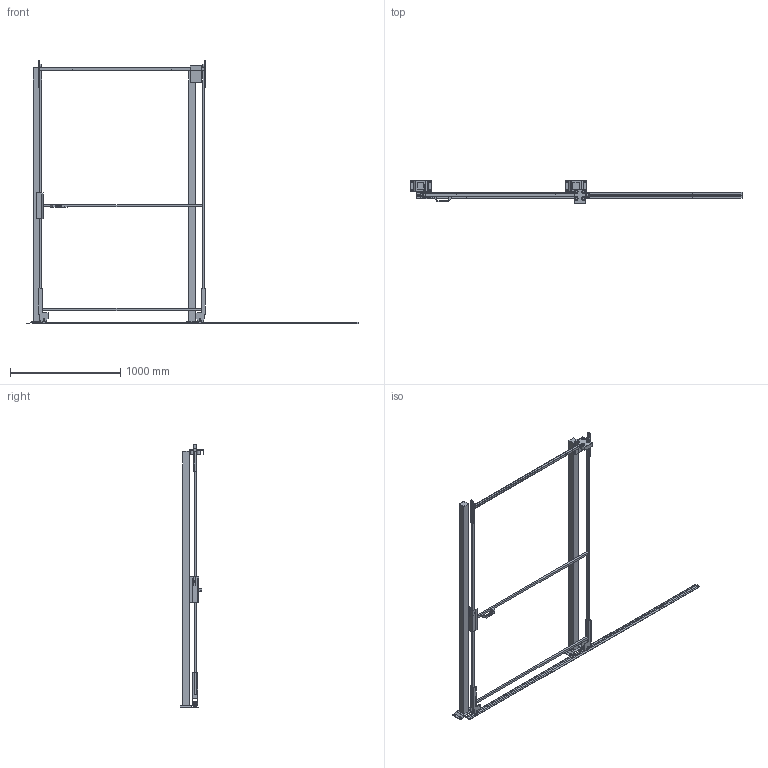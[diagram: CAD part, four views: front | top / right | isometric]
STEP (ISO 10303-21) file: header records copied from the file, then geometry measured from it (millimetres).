
FILE_DESCRIPTION(/* description */ (''),/* implementation_level */ '2;1');
FILE_NAME(/* name */ 'C:\SafeGuarding\ELABORATI\Drawing5_2025-05-05-12-46-51.stp',/* time_stamp */ '2025-05-05T12:46:56+02:00',/* author */ ('admin'),/* organization */ (''),/* preprocessor_version */ 'ST-DEVELOPER v18.1',/* originating_system */ 'AutoCAD Mechanical',/* authorisation */ '');
FILE_SCHEMA (('AUTOMOTIVE_DESIGN { 1 0 10303 214 3 1 1 }'));
Length unit declared in the file: millimetre
Products named in the file (3): Product; R_VFPA.REPE20.15002200; P_VFMA.V260SDU.2320
Assembly tree (3 placements, depth 2):
  Product
    R_VFPA.REPE20.15002200
    P_VFMA.V260SDU.2320  x2
Bounding box: 3011.45 x 210 x 2390 mm (x, y, z)
Volume: 22622082.1 mm3; surface area: 3318120.1 mm2
Topology: 35 solids, 46 shells, 357 faces, 1123 edges, 1073 vertices
Faces by surface type: plane 311, cylinder 40, cone 4, sphere 2
Full cylindrical faces by diameter (mm): 9 x4, 11 x8, 13 x4, 18 x4, 30 x2, 36 x4, 58 x4
Entity records: 11645 total; most frequent: CARTESIAN_POINT 2501, DIRECTION 1775, ORIENTED_EDGE 1622, EDGE_CURVE 860, LINE 805, VECTOR 805, VERTEX_POINT 614, AXIS2_PLACEMENT_3D 485
